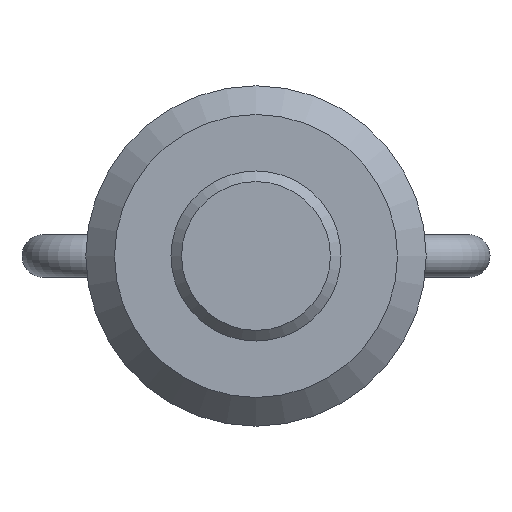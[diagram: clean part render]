
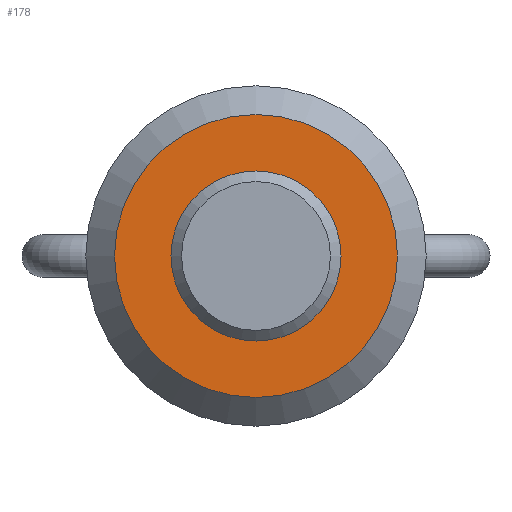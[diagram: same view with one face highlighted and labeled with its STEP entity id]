
A CAD part, front view. The second image highlights one B-rep face of the part: STEP entity #178.
In plain terms, the highlighted planar face has unit normal (0, -1, 0).
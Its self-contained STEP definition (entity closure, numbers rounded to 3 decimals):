
#178 = ADVANCED_FACE( '', ( #231, #232 ), #233, .T. );
#231 = FACE_OUTER_BOUND( '', #338, .T. );
#232 = FACE_BOUND( '', #339, .T. );
#233 = PLANE( '', #340 );
#338 = EDGE_LOOP( '', ( #484 ) );
#339 = EDGE_LOOP( '', ( #485 ) );
#340 = AXIS2_PLACEMENT_3D( '', #486, #487, #488 );
#484 = ORIENTED_EDGE( '', *, *, #665, .T. );
#485 = ORIENTED_EDGE( '', *, *, #666, .F. );
#486 = CARTESIAN_POINT( '', ( 4., 0., 0. ) );
#487 = DIRECTION( '', ( 0., -1., 0. ) );
#488 = DIRECTION( '', ( 0., 0., -1. ) );
#665 = EDGE_CURVE( '', #736, #736, #737, .T. );
#666 = EDGE_CURVE( '', #738, #738, #739, .T. );
#736 = VERTEX_POINT( '', #848 );
#737 = CIRCLE( '', #849, 6.65 );
#738 = VERTEX_POINT( '', #850 );
#739 = CIRCLE( '', #851, 4. );
#848 = CARTESIAN_POINT( '', ( 0., 0., -6.65 ) );
#849 = AXIS2_PLACEMENT_3D( '', #1022, #1023, #1024 );
#850 = CARTESIAN_POINT( '', ( 0., 0., -4. ) );
#851 = AXIS2_PLACEMENT_3D( '', #1025, #1026, #1027 );
#1022 = CARTESIAN_POINT( '', ( 0., 0., 0. ) );
#1023 = DIRECTION( '', ( 0., -1., 0. ) );
#1024 = DIRECTION( '', ( 0., 0., -1. ) );
#1025 = CARTESIAN_POINT( '', ( 0., 0., 0. ) );
#1026 = DIRECTION( '', ( 0., -1., 0. ) );
#1027 = DIRECTION( '', ( 0., 0., -1. ) );
